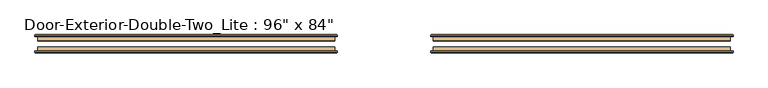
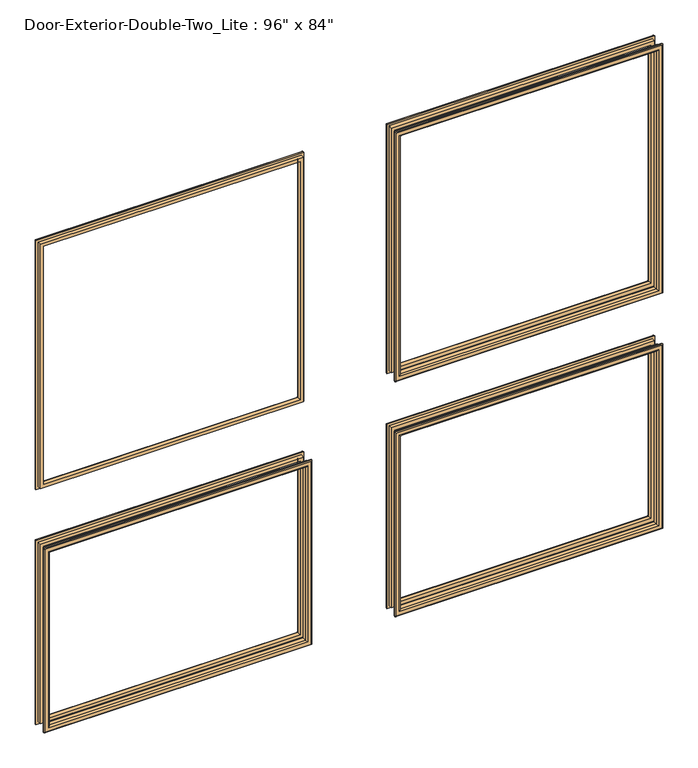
"""IFC4 building model written with IfcOpenShell, lengths in millimetres: door geometry."""

from ifc_helpers import new_model, si_unit, frame, origin, place, context, project, spatial, ellipse_curve, source, transform, mapped, element, save
from ifc_brep_helpers import plane_surface, cylinder_surface, advanced_brep


def door_76e3c7e0(model_context):
    return source(origin(), model_context, "Body", "AdvancedBrep", [
        advanced_brep(
        [(-1066.8, 123.825, 914.4), (-1066.8, 136.525, 914.4), (-1066.8, 136.525, 254.0), (-1066.8, 123.825, 254.0), (-1054.8, 137.525, 902.4), (-1054.8, 123.825, 902.4), (-1054.8, 123.825, 266.0), (-1054.8, 137.525, 266.0), (-1059.8, 142.525, 907.4), (-1059.8, 142.525, 261.0), (-1074.8, 140.525, 922.4), (-1072.8, 142.525, 920.4), (-1072.8, 142.525, 248.0), (-1074.8, 140.525, 246.0), (-1074.8, 136.525, 922.4), (-1074.8, 136.525, 246.0), (-152.4, 136.525, 254.0), (-152.4, 123.825, 254.0), (-164.4, 123.825, 266.0), (-164.4, 137.525, 266.0), (-159.4, 142.525, 261.0), (-146.4, 142.525, 248.0), (-144.4, 140.525, 246.0), (-144.4, 136.525, 246.0), (-152.4, 136.525, 914.4), (-152.4, 123.825, 914.4), (-164.4, 123.825, 902.4), (-164.4, 137.525, 902.4), (-159.4, 142.525, 907.4), (-146.4, 142.525, 920.4), (-144.4, 140.525, 922.4), (-144.4, 136.525, 922.4)],
        [
            (0, 1),
            (1, 2),
            (2, 3),
            (3, 0),
            (4, 5),
            (5, 6),
            (6, 7),
            (7, 4),
            (8, 4, ellipse_curve(frame((-1059.8, 137.525, 907.4), z_axis=(-0.7071067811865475, 0.0, -0.7071067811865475), x_axis=(-0.7071067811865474, 0.0, 0.7071067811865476)), 7.0710678, 5.0)),
            (7, 9, ellipse_curve(frame((-1059.8, 137.525, 261.0), z_axis=(-0.7071067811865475, 0.0, 0.7071067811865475), x_axis=(0.7071067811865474, 0.0, 0.7071067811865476)), 7.0710678, 5.0)),
            (9, 8),
            (10, 11, ellipse_curve(frame((-1072.8, 140.525, 920.4), z_axis=(-0.7071067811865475, 0.0, -0.7071067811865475), x_axis=(-0.7071067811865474, 0.0, 0.7071067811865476)), 2.8284271, 2.0)),
            (11, 12),
            (12, 13, ellipse_curve(frame((-1072.8, 140.525, 248.0), z_axis=(-0.7071067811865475, 0.0, 0.7071067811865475), x_axis=(0.7071067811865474, 0.0, 0.7071067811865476)), 2.8284271, 2.0)),
            (13, 10),
            (14, 10),
            (13, 15),
            (15, 14),
            (2, 16),
            (16, 17),
            (17, 3),
            (6, 18),
            (18, 19),
            (19, 7),
            (19, 20, ellipse_curve(frame((-159.4, 137.525, 261.0), z_axis=(-0.7071067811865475, 0.0, -0.7071067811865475), x_axis=(-0.7071067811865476, 0.0, 0.7071067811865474)), 7.0710678, 5.0)),
            (20, 9),
            (12, 21),
            (21, 22, ellipse_curve(frame((-146.4, 140.525, 248.0), z_axis=(-0.7071067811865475, 0.0, -0.7071067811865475), x_axis=(-0.7071067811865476, 0.0, 0.7071067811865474)), 2.8284271, 2.0)),
            (22, 13),
            (22, 23),
            (23, 15),
            (16, 24),
            (24, 25),
            (25, 17),
            (18, 26),
            (26, 27),
            (27, 19),
            (27, 28, ellipse_curve(frame((-159.4, 137.525, 907.4), z_axis=(0.7071067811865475, 0.0, -0.7071067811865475), x_axis=(-0.7071067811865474, 0.0, -0.7071067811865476)), 7.0710678, 5.0)),
            (28, 20),
            (21, 29),
            (29, 30, ellipse_curve(frame((-146.4, 140.525, 920.4), z_axis=(0.7071067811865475, 0.0, -0.7071067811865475), x_axis=(-0.7071067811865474, 0.0, -0.7071067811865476)), 2.8284271, 2.0)),
            (30, 22),
            (30, 31),
            (31, 23),
            (31, 14),
            (1, 24),
            (0, 25),
            (5, 26),
            (4, 27),
            (8, 28),
            (11, 29),
            (10, 30),
        ],
        [
            plane_surface(frame((-1066.8, 136.525, 914.4), z_axis=(-1.0, 0.0, 0.0), x_axis=(0.0, 0.0, -1.0))),
            plane_surface(frame((-1054.8, 123.825, 902.4), z_axis=(1.0, 0.0, 0.0), x_axis=(0.0, 0.0, -1.0))),
            cylinder_surface(frame((-1059.8, 137.525, 914.4), z_axis=(0.0, 0.0, 1.0), x_axis=(-1.0, 0.0, 0.0)), 5.0),
            cylinder_surface(frame((-1072.8, 140.525, 914.4), z_axis=(0.0, 0.0, 1.0), x_axis=(-1.0, 0.0, 0.0)), 2.0),
            plane_surface(frame((-1074.8, 140.525, 922.4), z_axis=(-1.0, 0.0, 0.0), x_axis=(0.0, 0.0, -1.0))),
            plane_surface(frame((-1066.8, 136.525, 254.0), z_axis=(0.0, 0.0, -1.0), x_axis=(1.0, 0.0, 0.0))),
            plane_surface(frame((-1054.8, 123.825, 266.0), z_axis=(0.0, 0.0, 1.0), x_axis=(1.0, 0.0, 0.0))),
            cylinder_surface(frame((-1066.8, 137.525, 261.0), z_axis=(-1.0, 0.0, 0.0), x_axis=(0.0, 0.0, -1.0)), 5.0),
            cylinder_surface(frame((-1066.8, 140.525, 248.0), z_axis=(-1.0, 0.0, 0.0), x_axis=(0.0, 0.0, -1.0)), 2.0),
            plane_surface(frame((-1074.8, 140.525, 246.0), z_axis=(0.0, 0.0, -1.0), x_axis=(1.0, 0.0, 0.0))),
            plane_surface(frame((-152.4, 136.525, 254.0), z_axis=(1.0, 0.0, 0.0), x_axis=(0.0, 0.0, 1.0))),
            plane_surface(frame((-164.4, 123.825, 266.0), z_axis=(-1.0, 0.0, 0.0), x_axis=(0.0, 0.0, 1.0))),
            cylinder_surface(frame((-159.4, 137.525, 254.0), z_axis=(0.0, 0.0, -1.0), x_axis=(1.0, 0.0, 0.0)), 5.0),
            cylinder_surface(frame((-146.4, 140.525, 254.0), z_axis=(0.0, 0.0, -1.0), x_axis=(1.0, 0.0, 0.0)), 2.0),
            plane_surface(frame((-144.4, 140.525, 246.0), z_axis=(1.0, 0.0, 0.0), x_axis=(0.0, 0.0, 1.0))),
            plane_surface(frame((-144.4, 136.525, 922.4), z_axis=(0.0, -1.0, 0.0), x_axis=(-1.0, 0.0, 0.0))),
            plane_surface(frame((-152.4, 136.525, 914.4), z_axis=(0.0, 0.0, 1.0), x_axis=(-1.0, 0.0, 0.0))),
            plane_surface(frame((-152.4, 123.825, 914.4), z_axis=(0.0, -1.0, 0.0), x_axis=(-1.0, 0.0, 0.0))),
            plane_surface(frame((-164.4, 123.825, 902.4), z_axis=(0.0, 0.0, -1.0), x_axis=(-1.0, 0.0, 0.0))),
            cylinder_surface(frame((-152.4, 137.525, 907.4), z_axis=(1.0, 0.0, 0.0), x_axis=(0.0, 0.0, 1.0)), 5.0),
            plane_surface(frame((-159.4, 142.525, 907.4), z_axis=(0.0, 1.0, 0.0), x_axis=(-1.0, 0.0, 0.0))),
            cylinder_surface(frame((-152.4, 140.525, 920.4), z_axis=(1.0, 0.0, 0.0), x_axis=(0.0, 0.0, 1.0)), 2.0),
            plane_surface(frame((-144.4, 140.525, 922.4), z_axis=(0.0, 0.0, 1.0), x_axis=(-1.0, 0.0, 0.0))),
        ],
        [
            (0, [[1, 2, 3, 4]]),
            (1, [[5, 6, 7, 8]]),
            (2, [[9, -8, 10, 11]]),
            (3, [[12, 13, 14, 15]]),
            (4, [[16, -15, 17, 18]]),
            (5, [[-3, 19, 20, 21]]),
            (6, [[-7, 22, 23, 24]]),
            (7, [[-10, -24, 25, 26]]),
            (8, [[-14, 27, 28, 29]]),
            (9, [[-17, -29, 30, 31]]),
            (10, [[-20, 32, 33, 34]]),
            (11, [[-23, 35, 36, 37]]),
            (12, [[-25, -37, 38, 39]]),
            (13, [[-28, 40, 41, 42]]),
            (14, [[-30, -42, 43, 44]]),
            (15, [[-31, -44, 45, -18], [46, -32, -19, -2]]),
            (16, [[-33, -46, -1, 47]]),
            (17, [[-21, -34, -47, -4], [48, -35, -22, -6]]),
            (18, [[-36, -48, -5, 49]]),
            (19, [[-38, -49, -9, 50]]),
            (20, [[51, -40, -27, -13], [-26, -39, -50, -11]]),
            (21, [[-41, -51, -12, 52]]),
            (22, [[-43, -52, -16, -45]]),
        ],
    ),
        advanced_brep(
        [(152.4, 123.825, 914.4), (152.4, 136.525, 914.4), (152.4, 136.525, 254.0), (152.4, 123.825, 254.0), (164.4, 137.525, 902.4), (164.4, 123.825, 902.4), (164.4, 123.825, 266.0), (164.4, 137.525, 266.0), (159.4, 142.525, 907.4), (159.4, 142.525, 261.0), (144.4, 140.525, 922.4), (146.4, 142.525, 920.4), (146.4, 142.525, 248.0), (144.4, 140.525, 246.0), (144.4, 136.525, 922.4), (144.4, 136.525, 246.0), (1066.8, 136.525, 254.0), (1066.8, 123.825, 254.0), (1054.8, 123.825, 266.0), (1054.8, 137.525, 266.0), (1059.8, 142.525, 261.0), (1072.8, 142.525, 248.0), (1074.8, 140.525, 246.0), (1074.8, 136.525, 246.0), (1066.8, 136.525, 914.4), (1066.8, 123.825, 914.4), (1054.8, 123.825, 902.4), (1054.8, 137.525, 902.4), (1059.8, 142.525, 907.4), (1072.8, 142.525, 920.4), (1074.8, 140.525, 922.4), (1074.8, 136.525, 922.4)],
        [
            (0, 1),
            (1, 2),
            (2, 3),
            (3, 0),
            (4, 5),
            (5, 6),
            (6, 7),
            (7, 4),
            (8, 4, ellipse_curve(frame((159.4, 137.525, 907.4), z_axis=(-0.7071067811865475, 0.0, -0.7071067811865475), x_axis=(-0.7071067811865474, 0.0, 0.7071067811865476)), 7.0710678, 5.0)),
            (7, 9, ellipse_curve(frame((159.4, 137.525, 261.0), z_axis=(-0.7071067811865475, 0.0, 0.7071067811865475), x_axis=(0.7071067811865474, 0.0, 0.7071067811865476)), 7.0710678, 5.0)),
            (9, 8),
            (10, 11, ellipse_curve(frame((146.4, 140.525, 920.4), z_axis=(-0.7071067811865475, 0.0, -0.7071067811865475), x_axis=(-0.7071067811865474, 0.0, 0.7071067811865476)), 2.8284271, 2.0)),
            (11, 12),
            (12, 13, ellipse_curve(frame((146.4, 140.525, 248.0), z_axis=(-0.7071067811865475, 0.0, 0.7071067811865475), x_axis=(0.7071067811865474, 0.0, 0.7071067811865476)), 2.8284271, 2.0)),
            (13, 10),
            (14, 10),
            (13, 15),
            (15, 14),
            (2, 16),
            (16, 17),
            (17, 3),
            (6, 18),
            (18, 19),
            (19, 7),
            (19, 20, ellipse_curve(frame((1059.8, 137.525, 261.0), z_axis=(-0.7071067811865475, 0.0, -0.7071067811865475), x_axis=(-0.7071067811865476, 0.0, 0.7071067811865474)), 7.0710678, 5.0)),
            (20, 9),
            (12, 21),
            (21, 22, ellipse_curve(frame((1072.8, 140.525, 248.0), z_axis=(-0.7071067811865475, 0.0, -0.7071067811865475), x_axis=(-0.7071067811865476, 0.0, 0.7071067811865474)), 2.8284271, 2.0)),
            (22, 13),
            (22, 23),
            (23, 15),
            (16, 24),
            (24, 25),
            (25, 17),
            (18, 26),
            (26, 27),
            (27, 19),
            (27, 28, ellipse_curve(frame((1059.8, 137.525, 907.4), z_axis=(0.7071067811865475, 0.0, -0.7071067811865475), x_axis=(-0.7071067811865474, 0.0, -0.7071067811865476)), 7.0710678, 5.0)),
            (28, 20),
            (21, 29),
            (29, 30, ellipse_curve(frame((1072.8, 140.525, 920.4), z_axis=(0.7071067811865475, 0.0, -0.7071067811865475), x_axis=(-0.7071067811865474, 0.0, -0.7071067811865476)), 2.8284271, 2.0)),
            (30, 22),
            (30, 31),
            (31, 23),
            (31, 14),
            (1, 24),
            (0, 25),
            (5, 26),
            (4, 27),
            (8, 28),
            (11, 29),
            (10, 30),
        ],
        [
            plane_surface(frame((152.4, 136.525, 914.4), z_axis=(-1.0, 0.0, 0.0), x_axis=(0.0, 0.0, -1.0))),
            plane_surface(frame((164.4, 123.825, 902.4), z_axis=(1.0, 0.0, 0.0), x_axis=(0.0, 0.0, -1.0))),
            cylinder_surface(frame((159.4, 137.525, 914.4), z_axis=(0.0, 0.0, 1.0), x_axis=(-1.0, 0.0, 0.0)), 5.0),
            cylinder_surface(frame((146.4, 140.525, 914.4), z_axis=(0.0, 0.0, 1.0), x_axis=(-1.0, 0.0, 0.0)), 2.0),
            plane_surface(frame((144.4, 140.525, 922.4), z_axis=(-1.0, 0.0, 0.0), x_axis=(0.0, 0.0, -1.0))),
            plane_surface(frame((152.4, 136.525, 254.0), z_axis=(0.0, 0.0, -1.0), x_axis=(1.0, 0.0, 0.0))),
            plane_surface(frame((164.4, 123.825, 266.0), z_axis=(0.0, 0.0, 1.0), x_axis=(1.0, 0.0, 0.0))),
            cylinder_surface(frame((152.4, 137.525, 261.0), z_axis=(-1.0, 0.0, 0.0), x_axis=(0.0, 0.0, -1.0)), 5.0),
            cylinder_surface(frame((152.4, 140.525, 248.0), z_axis=(-1.0, 0.0, 0.0), x_axis=(0.0, 0.0, -1.0)), 2.0),
            plane_surface(frame((144.4, 140.525, 246.0), z_axis=(0.0, 0.0, -1.0), x_axis=(1.0, 0.0, 0.0))),
            plane_surface(frame((1066.8, 136.525, 254.0), z_axis=(1.0, 0.0, 0.0), x_axis=(0.0, 0.0, 1.0))),
            plane_surface(frame((1054.8, 123.825, 266.0), z_axis=(-1.0, 0.0, 0.0), x_axis=(0.0, 0.0, 1.0))),
            cylinder_surface(frame((1059.8, 137.525, 254.0), z_axis=(0.0, 0.0, -1.0), x_axis=(1.0, 0.0, 0.0)), 5.0),
            cylinder_surface(frame((1072.8, 140.525, 254.0), z_axis=(0.0, 0.0, -1.0), x_axis=(1.0, 0.0, 0.0)), 2.0),
            plane_surface(frame((1074.8, 140.525, 246.0), z_axis=(1.0, 0.0, 0.0), x_axis=(0.0, 0.0, 1.0))),
            plane_surface(frame((1074.8, 136.525, 922.4), z_axis=(0.0, -1.0, 0.0), x_axis=(-1.0, 0.0, 0.0))),
            plane_surface(frame((1066.8, 136.525, 914.4), z_axis=(0.0, 0.0, 1.0), x_axis=(-1.0, 0.0, 0.0))),
            plane_surface(frame((1066.8, 123.825, 914.4), z_axis=(0.0, -1.0, 0.0), x_axis=(-1.0, 0.0, 0.0))),
            plane_surface(frame((1054.8, 123.825, 902.4), z_axis=(0.0, 0.0, -1.0), x_axis=(-1.0, 0.0, 0.0))),
            cylinder_surface(frame((1066.8, 137.525, 907.4), z_axis=(1.0, 0.0, 0.0), x_axis=(0.0, 0.0, 1.0)), 5.0),
            plane_surface(frame((1059.8, 142.525, 907.4), z_axis=(0.0, 1.0, 0.0), x_axis=(-1.0, 0.0, 0.0))),
            cylinder_surface(frame((1066.8, 140.525, 920.4), z_axis=(1.0, 0.0, 0.0), x_axis=(0.0, 0.0, 1.0)), 2.0),
            plane_surface(frame((1074.8, 140.525, 922.4), z_axis=(0.0, 0.0, 1.0), x_axis=(-1.0, 0.0, 0.0))),
        ],
        [
            (0, [[1, 2, 3, 4]]),
            (1, [[5, 6, 7, 8]]),
            (2, [[9, -8, 10, 11]]),
            (3, [[12, 13, 14, 15]]),
            (4, [[16, -15, 17, 18]]),
            (5, [[-3, 19, 20, 21]]),
            (6, [[-7, 22, 23, 24]]),
            (7, [[-10, -24, 25, 26]]),
            (8, [[-14, 27, 28, 29]]),
            (9, [[-17, -29, 30, 31]]),
            (10, [[-20, 32, 33, 34]]),
            (11, [[-23, 35, 36, 37]]),
            (12, [[-25, -37, 38, 39]]),
            (13, [[-28, 40, 41, 42]]),
            (14, [[-30, -42, 43, 44]]),
            (15, [[-31, -44, 45, -18], [46, -32, -19, -2]]),
            (16, [[-33, -46, -1, 47]]),
            (17, [[-21, -34, -47, -4], [48, -35, -22, -6]]),
            (18, [[-36, -48, -5, 49]]),
            (19, [[-38, -49, -9, 50]]),
            (20, [[51, -40, -27, -13], [-26, -39, -50, -11]]),
            (21, [[-41, -51, -12, 52]]),
            (22, [[-43, -52, -16, -45]]),
        ],
    ),
        advanced_brep(
        [(152.4, 123.825, 2016.125), (152.4, 136.525, 2016.125), (152.4, 136.525, 1117.6), (152.4, 123.825, 1117.6), (164.4, 137.525, 2004.125), (164.4, 123.825, 2004.125), (164.4, 123.825, 1129.6), (164.4, 137.525, 1129.6), (159.4, 142.525, 2009.125), (159.4, 142.525, 1124.6), (144.4, 140.525, 2024.125), (146.4, 142.525, 2022.125), (146.4, 142.525, 1111.6), (144.4, 140.525, 1109.6), (144.4, 136.525, 2024.125), (144.4, 136.525, 1109.6), (1066.8, 136.525, 1117.6), (1066.8, 123.825, 1117.6), (1054.8, 123.825, 1129.6), (1054.8, 137.525, 1129.6), (1059.8, 142.525, 1124.6), (1072.8, 142.525, 1111.6), (1074.8, 140.525, 1109.6), (1074.8, 136.525, 1109.6), (1066.8, 136.525, 2016.125), (1066.8, 123.825, 2016.125), (1054.8, 123.825, 2004.125), (1054.8, 137.525, 2004.125), (1059.8, 142.525, 2009.125), (1072.8, 142.525, 2022.125), (1074.8, 140.525, 2024.125), (1074.8, 136.525, 2024.125)],
        [
            (0, 1),
            (1, 2),
            (2, 3),
            (3, 0),
            (4, 5),
            (5, 6),
            (6, 7),
            (7, 4),
            (8, 4, ellipse_curve(frame((159.4, 137.525, 2009.125), z_axis=(-0.7071067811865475, 0.0, -0.7071067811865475), x_axis=(-0.7071067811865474, 0.0, 0.7071067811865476)), 7.0710678, 5.0)),
            (7, 9, ellipse_curve(frame((159.4, 137.525, 1124.6), z_axis=(-0.7071067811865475, 0.0, 0.7071067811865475), x_axis=(0.7071067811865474, 0.0, 0.7071067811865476)), 7.0710678, 5.0)),
            (9, 8),
            (10, 11, ellipse_curve(frame((146.4, 140.525, 2022.125), z_axis=(-0.7071067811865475, 0.0, -0.7071067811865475), x_axis=(-0.7071067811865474, 0.0, 0.7071067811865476)), 2.8284271, 2.0)),
            (11, 12),
            (12, 13, ellipse_curve(frame((146.4, 140.525, 1111.6), z_axis=(-0.7071067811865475, 0.0, 0.7071067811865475), x_axis=(0.7071067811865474, 0.0, 0.7071067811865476)), 2.8284271, 2.0)),
            (13, 10),
            (14, 10),
            (13, 15),
            (15, 14),
            (2, 16),
            (16, 17),
            (17, 3),
            (6, 18),
            (18, 19),
            (19, 7),
            (19, 20, ellipse_curve(frame((1059.8, 137.525, 1124.6), z_axis=(-0.7071067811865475, 0.0, -0.7071067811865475), x_axis=(-0.7071067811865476, 0.0, 0.7071067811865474)), 7.0710678, 5.0)),
            (20, 9),
            (12, 21),
            (21, 22, ellipse_curve(frame((1072.8, 140.525, 1111.6), z_axis=(-0.7071067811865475, 0.0, -0.7071067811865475), x_axis=(-0.7071067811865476, 0.0, 0.7071067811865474)), 2.8284271, 2.0)),
            (22, 13),
            (22, 23),
            (23, 15),
            (16, 24),
            (24, 25),
            (25, 17),
            (18, 26),
            (26, 27),
            (27, 19),
            (27, 28, ellipse_curve(frame((1059.8, 137.525, 2009.125), z_axis=(0.7071067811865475, 0.0, -0.7071067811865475), x_axis=(-0.7071067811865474, 0.0, -0.7071067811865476)), 7.0710678, 5.0)),
            (28, 20),
            (21, 29),
            (29, 30, ellipse_curve(frame((1072.8, 140.525, 2022.125), z_axis=(0.7071067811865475, 0.0, -0.7071067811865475), x_axis=(-0.7071067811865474, 0.0, -0.7071067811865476)), 2.8284271, 2.0)),
            (30, 22),
            (30, 31),
            (31, 23),
            (31, 14),
            (1, 24),
            (0, 25),
            (5, 26),
            (4, 27),
            (8, 28),
            (11, 29),
            (10, 30),
        ],
        [
            plane_surface(frame((152.4, 136.525, 2016.125), z_axis=(-1.0, 0.0, 0.0), x_axis=(0.0, 0.0, -1.0))),
            plane_surface(frame((164.4, 123.825, 2004.125), z_axis=(1.0, 0.0, 0.0), x_axis=(0.0, 0.0, -1.0))),
            cylinder_surface(frame((159.4, 137.525, 2016.125), z_axis=(0.0, 0.0, 1.0), x_axis=(-1.0, 0.0, 0.0)), 5.0),
            cylinder_surface(frame((146.4, 140.525, 2016.125), z_axis=(0.0, 0.0, 1.0), x_axis=(-1.0, 0.0, 0.0)), 2.0),
            plane_surface(frame((144.4, 140.525, 2024.125), z_axis=(-1.0, 0.0, 0.0), x_axis=(0.0, 0.0, -1.0))),
            plane_surface(frame((152.4, 136.525, 1117.6), z_axis=(0.0, 0.0, -1.0), x_axis=(1.0, 0.0, 0.0))),
            plane_surface(frame((164.4, 123.825, 1129.6), z_axis=(0.0, 0.0, 1.0), x_axis=(1.0, 0.0, 0.0))),
            cylinder_surface(frame((152.4, 137.525, 1124.6), z_axis=(-1.0, 0.0, 0.0), x_axis=(0.0, 0.0, -1.0)), 5.0),
            cylinder_surface(frame((152.4, 140.525, 1111.6), z_axis=(-1.0, 0.0, 0.0), x_axis=(0.0, 0.0, -1.0)), 2.0),
            plane_surface(frame((144.4, 140.525, 1109.6), z_axis=(0.0, 0.0, -1.0), x_axis=(1.0, 0.0, 0.0))),
            plane_surface(frame((1066.8, 136.525, 1117.6), z_axis=(1.0, 0.0, 0.0), x_axis=(0.0, 0.0, 1.0))),
            plane_surface(frame((1054.8, 123.825, 1129.6), z_axis=(-1.0, 0.0, 0.0), x_axis=(0.0, 0.0, 1.0))),
            cylinder_surface(frame((1059.8, 137.525, 1117.6), z_axis=(0.0, 0.0, -1.0), x_axis=(1.0, 0.0, 0.0)), 5.0),
            cylinder_surface(frame((1072.8, 140.525, 1117.6), z_axis=(0.0, 0.0, -1.0), x_axis=(1.0, 0.0, 0.0)), 2.0),
            plane_surface(frame((1074.8, 140.525, 1109.6), z_axis=(1.0, 0.0, 0.0), x_axis=(0.0, 0.0, 1.0))),
            plane_surface(frame((1074.8, 136.525, 2024.125), z_axis=(0.0, -1.0, 0.0), x_axis=(-1.0, 0.0, 0.0))),
            plane_surface(frame((1066.8, 136.525, 2016.125), z_axis=(0.0, 0.0, 1.0), x_axis=(-1.0, 0.0, 0.0))),
            plane_surface(frame((1066.8, 123.825, 2016.125), z_axis=(0.0, -1.0, 0.0), x_axis=(-1.0, 0.0, 0.0))),
            plane_surface(frame((1054.8, 123.825, 2004.125), z_axis=(0.0, 0.0, -1.0), x_axis=(-1.0, 0.0, 0.0))),
            cylinder_surface(frame((1066.8, 137.525, 2009.125), z_axis=(1.0, 0.0, 0.0), x_axis=(0.0, 0.0, 1.0)), 5.0),
            plane_surface(frame((1059.8, 142.525, 2009.125), z_axis=(0.0, 1.0, 0.0), x_axis=(-1.0, 0.0, 0.0))),
            cylinder_surface(frame((1066.8, 140.525, 2022.125), z_axis=(1.0, 0.0, 0.0), x_axis=(0.0, 0.0, 1.0)), 2.0),
            plane_surface(frame((1074.8, 140.525, 2024.125), z_axis=(0.0, 0.0, 1.0), x_axis=(-1.0, 0.0, 0.0))),
        ],
        [
            (0, [[1, 2, 3, 4]]),
            (1, [[5, 6, 7, 8]]),
            (2, [[9, -8, 10, 11]]),
            (3, [[12, 13, 14, 15]]),
            (4, [[16, -15, 17, 18]]),
            (5, [[-3, 19, 20, 21]]),
            (6, [[-7, 22, 23, 24]]),
            (7, [[-10, -24, 25, 26]]),
            (8, [[-14, 27, 28, 29]]),
            (9, [[-17, -29, 30, 31]]),
            (10, [[-20, 32, 33, 34]]),
            (11, [[-23, 35, 36, 37]]),
            (12, [[-25, -37, 38, 39]]),
            (13, [[-28, 40, 41, 42]]),
            (14, [[-30, -42, 43, 44]]),
            (15, [[-31, -44, 45, -18], [46, -32, -19, -2]]),
            (16, [[-33, -46, -1, 47]]),
            (17, [[-21, -34, -47, -4], [48, -35, -22, -6]]),
            (18, [[-36, -48, -5, 49]]),
            (19, [[-38, -49, -9, 50]]),
            (20, [[51, -40, -27, -13], [-26, -39, -50, -11]]),
            (21, [[-41, -51, -12, 52]]),
            (22, [[-43, -52, -16, -45]]),
        ],
    ),
        advanced_brep(
        [(-1066.8, 123.825, 2016.125), (-1066.8, 136.525, 2016.125), (-1066.8, 136.525, 1117.6), (-1066.8, 123.825, 1117.6), (-1054.8, 137.525, 2004.125), (-1054.8, 123.825, 2004.125), (-1054.8, 123.825, 1129.6), (-1054.8, 137.525, 1129.6), (-1059.8, 142.525, 2009.125), (-1059.8, 142.525, 1124.6), (-1074.8, 140.525, 2024.125), (-1072.8, 142.525, 2022.125), (-1072.8, 142.525, 1111.6), (-1074.8, 140.525, 1109.6), (-1074.8, 136.525, 2024.125), (-1074.8, 136.525, 1109.6), (-152.4, 136.525, 1117.6), (-152.4, 123.825, 1117.6), (-164.4, 123.825, 1129.6), (-164.4, 137.525, 1129.6), (-159.4, 142.525, 1124.6), (-146.4, 142.525, 1111.6), (-144.4, 140.525, 1109.6), (-144.4, 136.525, 1109.6), (-152.4, 136.525, 2016.125), (-152.4, 123.825, 2016.125), (-164.4, 123.825, 2004.125), (-164.4, 137.525, 2004.125), (-159.4, 142.525, 2009.125), (-146.4, 142.525, 2022.125), (-144.4, 140.525, 2024.125), (-144.4, 136.525, 2024.125)],
        [
            (0, 1),
            (1, 2),
            (2, 3),
            (3, 0),
            (4, 5),
            (5, 6),
            (6, 7),
            (7, 4),
            (8, 4, ellipse_curve(frame((-1059.8, 137.525, 2009.125), z_axis=(-0.7071067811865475, 0.0, -0.7071067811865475), x_axis=(-0.7071067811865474, 0.0, 0.7071067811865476)), 7.0710678, 5.0)),
            (7, 9, ellipse_curve(frame((-1059.8, 137.525, 1124.6), z_axis=(-0.7071067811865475, 0.0, 0.7071067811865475), x_axis=(0.7071067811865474, 0.0, 0.7071067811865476)), 7.0710678, 5.0)),
            (9, 8),
            (10, 11, ellipse_curve(frame((-1072.8, 140.525, 2022.125), z_axis=(-0.7071067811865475, 0.0, -0.7071067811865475), x_axis=(-0.7071067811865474, 0.0, 0.7071067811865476)), 2.8284271, 2.0)),
            (11, 12),
            (12, 13, ellipse_curve(frame((-1072.8, 140.525, 1111.6), z_axis=(-0.7071067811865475, 0.0, 0.7071067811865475), x_axis=(0.7071067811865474, 0.0, 0.7071067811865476)), 2.8284271, 2.0)),
            (13, 10),
            (14, 10),
            (13, 15),
            (15, 14),
            (2, 16),
            (16, 17),
            (17, 3),
            (6, 18),
            (18, 19),
            (19, 7),
            (19, 20, ellipse_curve(frame((-159.4, 137.525, 1124.6), z_axis=(-0.7071067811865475, 0.0, -0.7071067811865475), x_axis=(-0.7071067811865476, 0.0, 0.7071067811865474)), 7.0710678, 5.0)),
            (20, 9),
            (12, 21),
            (21, 22, ellipse_curve(frame((-146.4, 140.525, 1111.6), z_axis=(-0.7071067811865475, 0.0, -0.7071067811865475), x_axis=(-0.7071067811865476, 0.0, 0.7071067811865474)), 2.8284271, 2.0)),
            (22, 13),
            (22, 23),
            (23, 15),
            (16, 24),
            (24, 25),
            (25, 17),
            (18, 26),
            (26, 27),
            (27, 19),
            (27, 28, ellipse_curve(frame((-159.4, 137.525, 2009.125), z_axis=(0.7071067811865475, 0.0, -0.7071067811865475), x_axis=(-0.7071067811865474, 0.0, -0.7071067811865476)), 7.0710678, 5.0)),
            (28, 20),
            (21, 29),
            (29, 30, ellipse_curve(frame((-146.4, 140.525, 2022.125), z_axis=(0.7071067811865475, 0.0, -0.7071067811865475), x_axis=(-0.7071067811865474, 0.0, -0.7071067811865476)), 2.8284271, 2.0)),
            (30, 22),
            (30, 31),
            (31, 23),
            (31, 14),
            (1, 24),
            (0, 25),
            (5, 26),
            (4, 27),
            (8, 28),
            (11, 29),
            (10, 30),
        ],
        [
            plane_surface(frame((-1066.8, 136.525, 2016.125), z_axis=(-1.0, 0.0, 0.0), x_axis=(0.0, 0.0, -1.0))),
            plane_surface(frame((-1054.8, 123.825, 2004.125), z_axis=(1.0, 0.0, 0.0), x_axis=(0.0, 0.0, -1.0))),
            cylinder_surface(frame((-1059.8, 137.525, 2016.125), z_axis=(0.0, 0.0, 1.0), x_axis=(-1.0, 0.0, 0.0)), 5.0),
            cylinder_surface(frame((-1072.8, 140.525, 2016.125), z_axis=(0.0, 0.0, 1.0), x_axis=(-1.0, 0.0, 0.0)), 2.0),
            plane_surface(frame((-1074.8, 140.525, 2024.125), z_axis=(-1.0, 0.0, 0.0), x_axis=(0.0, 0.0, -1.0))),
            plane_surface(frame((-1066.8, 136.525, 1117.6), z_axis=(0.0, 0.0, -1.0), x_axis=(1.0, 0.0, 0.0))),
            plane_surface(frame((-1054.8, 123.825, 1129.6), z_axis=(0.0, 0.0, 1.0), x_axis=(1.0, 0.0, 0.0))),
            cylinder_surface(frame((-1066.8, 137.525, 1124.6), z_axis=(-1.0, 0.0, 0.0), x_axis=(0.0, 0.0, -1.0)), 5.0),
            cylinder_surface(frame((-1066.8, 140.525, 1111.6), z_axis=(-1.0, 0.0, 0.0), x_axis=(0.0, 0.0, -1.0)), 2.0),
            plane_surface(frame((-1074.8, 140.525, 1109.6), z_axis=(0.0, 0.0, -1.0), x_axis=(1.0, 0.0, 0.0))),
            plane_surface(frame((-152.4, 136.525, 1117.6), z_axis=(1.0, 0.0, 0.0), x_axis=(0.0, 0.0, 1.0))),
            plane_surface(frame((-164.4, 123.825, 1129.6), z_axis=(-1.0, 0.0, 0.0), x_axis=(0.0, 0.0, 1.0))),
            cylinder_surface(frame((-159.4, 137.525, 1117.6), z_axis=(0.0, 0.0, -1.0), x_axis=(1.0, 0.0, 0.0)), 5.0),
            cylinder_surface(frame((-146.4, 140.525, 1117.6), z_axis=(0.0, 0.0, -1.0), x_axis=(1.0, 0.0, 0.0)), 2.0),
            plane_surface(frame((-144.4, 140.525, 1109.6), z_axis=(1.0, 0.0, 0.0), x_axis=(0.0, 0.0, 1.0))),
            plane_surface(frame((-144.4, 136.525, 2024.125), z_axis=(0.0, -1.0, 0.0), x_axis=(-1.0, 0.0, 0.0))),
            plane_surface(frame((-152.4, 136.525, 2016.125), z_axis=(0.0, 0.0, 1.0), x_axis=(-1.0, 0.0, 0.0))),
            plane_surface(frame((-152.4, 123.825, 2016.125), z_axis=(0.0, -1.0, 0.0), x_axis=(-1.0, 0.0, 0.0))),
            plane_surface(frame((-164.4, 123.825, 2004.125), z_axis=(0.0, 0.0, -1.0), x_axis=(-1.0, 0.0, 0.0))),
            cylinder_surface(frame((-152.4, 137.525, 2009.125), z_axis=(1.0, 0.0, 0.0), x_axis=(0.0, 0.0, 1.0)), 5.0),
            plane_surface(frame((-159.4, 142.525, 2009.125), z_axis=(0.0, 1.0, 0.0), x_axis=(-1.0, 0.0, 0.0))),
            cylinder_surface(frame((-152.4, 140.525, 2022.125), z_axis=(1.0, 0.0, 0.0), x_axis=(0.0, 0.0, 1.0)), 2.0),
            plane_surface(frame((-144.4, 140.525, 2024.125), z_axis=(0.0, 0.0, 1.0), x_axis=(-1.0, 0.0, 0.0))),
        ],
        [
            (0, [[1, 2, 3, 4]]),
            (1, [[5, 6, 7, 8]]),
            (2, [[9, -8, 10, 11]]),
            (3, [[12, 13, 14, 15]]),
            (4, [[16, -15, 17, 18]]),
            (5, [[-3, 19, 20, 21]]),
            (6, [[-7, 22, 23, 24]]),
            (7, [[-10, -24, 25, 26]]),
            (8, [[-14, 27, 28, 29]]),
            (9, [[-17, -29, 30, 31]]),
            (10, [[-20, 32, 33, 34]]),
            (11, [[-23, 35, 36, 37]]),
            (12, [[-25, -37, 38, 39]]),
            (13, [[-28, 40, 41, 42]]),
            (14, [[-30, -42, 43, 44]]),
            (15, [[-31, -44, 45, -18], [46, -32, -19, -2]]),
            (16, [[-33, -46, -1, 47]]),
            (17, [[-21, -34, -47, -4], [48, -35, -22, -6]]),
            (18, [[-36, -48, -5, 49]]),
            (19, [[-38, -49, -9, 50]]),
            (20, [[51, -40, -27, -13], [-26, -39, -50, -11]]),
            (21, [[-41, -51, -12, 52]]),
            (22, [[-43, -52, -16, -45]]),
        ],
    ),
        advanced_brep(
        [(-1066.8, 104.775, 254.0), (-1066.8, 92.075, 254.0), (-1066.8, 92.075, 914.4), (-1066.8, 104.775, 914.4), (-1054.8, 91.075, 266.0), (-1054.8, 104.775, 266.0), (-1054.8, 104.775, 902.4), (-1054.8, 91.075, 902.4), (-1059.8, 86.075, 261.0), (-1059.8, 86.075, 907.4), (-1074.8, 88.075, 246.0), (-1072.8, 86.075, 248.0), (-1072.8, 86.075, 920.4), (-1074.8, 88.075, 922.4), (-1074.8, 92.075, 246.0), (-1074.8, 92.075, 922.4), (-152.4, 92.075, 914.4), (-152.4, 104.775, 914.4), (-164.4, 104.775, 902.4), (-164.4, 91.075, 902.4), (-159.4, 86.075, 907.4), (-146.4, 86.075, 920.4), (-144.4, 88.075, 922.4), (-144.4, 92.075, 922.4), (-152.4, 92.075, 254.0), (-152.4, 104.775, 254.0), (-164.4, 104.775, 266.0), (-164.4, 91.075, 266.0), (-159.4, 86.075, 261.0), (-146.4, 86.075, 248.0), (-144.4, 88.075, 246.0), (-144.4, 92.075, 246.0)],
        [
            (0, 1),
            (1, 2),
            (2, 3),
            (3, 0),
            (4, 5),
            (5, 6),
            (6, 7),
            (7, 4),
            (8, 4, ellipse_curve(frame((-1059.8, 91.075, 261.0), z_axis=(-0.7071067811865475, 0.0, 0.7071067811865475), x_axis=(-0.7071067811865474, 0.0, -0.7071067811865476)), 7.0710678, 5.0)),
            (7, 9, ellipse_curve(frame((-1059.8, 91.075, 907.4), z_axis=(-0.7071067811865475, 0.0, -0.7071067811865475), x_axis=(0.7071067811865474, 0.0, -0.7071067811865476)), 7.0710678, 5.0)),
            (9, 8),
            (10, 11, ellipse_curve(frame((-1072.8, 88.075, 248.0), z_axis=(-0.7071067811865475, 0.0, 0.7071067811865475), x_axis=(-0.7071067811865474, 0.0, -0.7071067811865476)), 2.8284271, 2.0)),
            (11, 12),
            (12, 13, ellipse_curve(frame((-1072.8, 88.075, 920.4), z_axis=(-0.7071067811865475, 0.0, -0.7071067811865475), x_axis=(0.7071067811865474, 0.0, -0.7071067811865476)), 2.8284271, 2.0)),
            (13, 10),
            (14, 10),
            (13, 15),
            (15, 14),
            (2, 16),
            (16, 17),
            (17, 3),
            (6, 18),
            (18, 19),
            (19, 7),
            (19, 20, ellipse_curve(frame((-159.4, 91.075, 907.4), z_axis=(-0.7071067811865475, 0.0, 0.7071067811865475), x_axis=(-0.7071067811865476, 0.0, -0.7071067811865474)), 7.0710678, 5.0)),
            (20, 9),
            (12, 21),
            (21, 22, ellipse_curve(frame((-146.4, 88.075, 920.4), z_axis=(-0.7071067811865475, 0.0, 0.7071067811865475), x_axis=(-0.7071067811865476, 0.0, -0.7071067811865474)), 2.8284271, 2.0)),
            (22, 13),
            (22, 23),
            (23, 15),
            (16, 24),
            (24, 25),
            (25, 17),
            (18, 26),
            (26, 27),
            (27, 19),
            (27, 28, ellipse_curve(frame((-159.4, 91.075, 261.0), z_axis=(0.7071067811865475, 0.0, 0.7071067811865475), x_axis=(-0.7071067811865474, 0.0, 0.7071067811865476)), 7.0710678, 5.0)),
            (28, 20),
            (21, 29),
            (29, 30, ellipse_curve(frame((-146.4, 88.075, 248.0), z_axis=(0.7071067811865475, 0.0, 0.7071067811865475), x_axis=(-0.7071067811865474, 0.0, 0.7071067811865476)), 2.8284271, 2.0)),
            (30, 22),
            (30, 31),
            (31, 23),
            (31, 14),
            (1, 24),
            (0, 25),
            (5, 26),
            (4, 27),
            (8, 28),
            (11, 29),
            (10, 30),
        ],
        [
            plane_surface(frame((-1066.8, 92.075, 254.0), z_axis=(-1.0, 0.0, 0.0), x_axis=(0.0, 0.0, 1.0))),
            plane_surface(frame((-1054.8, 104.775, 266.0), z_axis=(1.0, 0.0, 0.0), x_axis=(0.0, 0.0, 1.0))),
            cylinder_surface(frame((-1059.8, 91.075, 254.0), z_axis=(0.0, 0.0, -1.0), x_axis=(-1.0, 0.0, 0.0)), 5.0),
            cylinder_surface(frame((-1072.8, 88.075, 254.0), z_axis=(0.0, 0.0, -1.0), x_axis=(-1.0, 0.0, 0.0)), 2.0),
            plane_surface(frame((-1074.8, 88.075, 246.0), z_axis=(-1.0, 0.0, 0.0), x_axis=(0.0, 0.0, 1.0))),
            plane_surface(frame((-1066.8, 92.075, 914.4), z_axis=(0.0, 0.0, 1.0), x_axis=(1.0, 0.0, 0.0))),
            plane_surface(frame((-1054.8, 104.775, 902.4), z_axis=(0.0, 0.0, -1.0), x_axis=(1.0, 0.0, 0.0))),
            cylinder_surface(frame((-1066.8, 91.075, 907.4), z_axis=(-1.0, 0.0, 0.0), x_axis=(0.0, 0.0, 1.0)), 5.0),
            cylinder_surface(frame((-1066.8, 88.075, 920.4), z_axis=(-1.0, 0.0, 0.0), x_axis=(0.0, 0.0, 1.0)), 2.0),
            plane_surface(frame((-1074.8, 88.075, 922.4), z_axis=(0.0, 0.0, 1.0), x_axis=(1.0, 0.0, 0.0))),
            plane_surface(frame((-152.4, 92.075, 914.4), z_axis=(1.0, 0.0, 0.0), x_axis=(0.0, 0.0, -1.0))),
            plane_surface(frame((-164.4, 104.775, 902.4), z_axis=(-1.0, 0.0, 0.0), x_axis=(0.0, 0.0, -1.0))),
            cylinder_surface(frame((-159.4, 91.075, 914.4), z_axis=(0.0, 0.0, 1.0), x_axis=(1.0, 0.0, 0.0)), 5.0),
            cylinder_surface(frame((-146.4, 88.075, 914.4), z_axis=(0.0, 0.0, 1.0), x_axis=(1.0, 0.0, 0.0)), 2.0),
            plane_surface(frame((-144.4, 88.075, 922.4), z_axis=(1.0, 0.0, 0.0), x_axis=(0.0, 0.0, -1.0))),
            plane_surface(frame((-144.4, 92.075, 246.0), z_axis=(0.0, 1.0, 0.0), x_axis=(-1.0, 0.0, 0.0))),
            plane_surface(frame((-152.4, 92.075, 254.0), z_axis=(0.0, 0.0, -1.0), x_axis=(-1.0, 0.0, 0.0))),
            plane_surface(frame((-152.4, 104.775, 254.0), z_axis=(0.0, 1.0, 0.0), x_axis=(-1.0, 0.0, 0.0))),
            plane_surface(frame((-164.4, 104.775, 266.0), z_axis=(0.0, 0.0, 1.0), x_axis=(-1.0, 0.0, 0.0))),
            cylinder_surface(frame((-152.4, 91.075, 261.0), z_axis=(1.0, 0.0, 0.0), x_axis=(0.0, 0.0, -1.0)), 5.0),
            plane_surface(frame((-159.4, 86.075, 261.0), z_axis=(0.0, -1.0, 0.0), x_axis=(-1.0, 0.0, 0.0))),
            cylinder_surface(frame((-152.4, 88.075, 248.0), z_axis=(1.0, 0.0, 0.0), x_axis=(0.0, 0.0, -1.0)), 2.0),
            plane_surface(frame((-144.4, 88.075, 246.0), z_axis=(0.0, 0.0, -1.0), x_axis=(-1.0, 0.0, 0.0))),
        ],
        [
            (0, [[1, 2, 3, 4]]),
            (1, [[5, 6, 7, 8]]),
            (2, [[9, -8, 10, 11]]),
            (3, [[12, 13, 14, 15]]),
            (4, [[16, -15, 17, 18]]),
            (5, [[-3, 19, 20, 21]]),
            (6, [[-7, 22, 23, 24]]),
            (7, [[-10, -24, 25, 26]]),
            (8, [[-14, 27, 28, 29]]),
            (9, [[-17, -29, 30, 31]]),
            (10, [[-20, 32, 33, 34]]),
            (11, [[-23, 35, 36, 37]]),
            (12, [[-25, -37, 38, 39]]),
            (13, [[-28, 40, 41, 42]]),
            (14, [[-30, -42, 43, 44]]),
            (15, [[-31, -44, 45, -18], [46, -32, -19, -2]]),
            (16, [[-33, -46, -1, 47]]),
            (17, [[-21, -34, -47, -4], [48, -35, -22, -6]]),
            (18, [[-36, -48, -5, 49]]),
            (19, [[-38, -49, -9, 50]]),
            (20, [[51, -40, -27, -13], [-26, -39, -50, -11]]),
            (21, [[-41, -51, -12, 52]]),
            (22, [[-43, -52, -16, -45]]),
        ],
    ),
        advanced_brep(
        [(152.4, 104.775, 254.0), (152.4, 92.075, 254.0), (152.4, 92.075, 914.4), (152.4, 104.775, 914.4), (164.4, 91.075, 266.0), (164.4, 104.775, 266.0), (164.4, 104.775, 902.4), (164.4, 91.075, 902.4), (159.4, 86.075, 261.0), (159.4, 86.075, 907.4), (144.4, 88.075, 246.0), (146.4, 86.075, 248.0), (146.4, 86.075, 920.4), (144.4, 88.075, 922.4), (144.4, 92.075, 246.0), (144.4, 92.075, 922.4), (1066.8, 92.075, 914.4), (1066.8, 104.775, 914.4), (1054.8, 104.775, 902.4), (1054.8, 91.075, 902.4), (1059.8, 86.075, 907.4), (1072.8, 86.075, 920.4), (1074.8, 88.075, 922.4), (1074.8, 92.075, 922.4), (1066.8, 92.075, 254.0), (1066.8, 104.775, 254.0), (1054.8, 104.775, 266.0), (1054.8, 91.075, 266.0), (1059.8, 86.075, 261.0), (1072.8, 86.075, 248.0), (1074.8, 88.075, 246.0), (1074.8, 92.075, 246.0)],
        [
            (0, 1),
            (1, 2),
            (2, 3),
            (3, 0),
            (4, 5),
            (5, 6),
            (6, 7),
            (7, 4),
            (8, 4, ellipse_curve(frame((159.4, 91.075, 261.0), z_axis=(-0.7071067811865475, 0.0, 0.7071067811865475), x_axis=(-0.7071067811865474, 0.0, -0.7071067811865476)), 7.0710678, 5.0)),
            (7, 9, ellipse_curve(frame((159.4, 91.075, 907.4), z_axis=(-0.7071067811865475, 0.0, -0.7071067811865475), x_axis=(0.7071067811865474, 0.0, -0.7071067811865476)), 7.0710678, 5.0)),
            (9, 8),
            (10, 11, ellipse_curve(frame((146.4, 88.075, 248.0), z_axis=(-0.7071067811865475, 0.0, 0.7071067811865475), x_axis=(-0.7071067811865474, 0.0, -0.7071067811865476)), 2.8284271, 2.0)),
            (11, 12),
            (12, 13, ellipse_curve(frame((146.4, 88.075, 920.4), z_axis=(-0.7071067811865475, 0.0, -0.7071067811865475), x_axis=(0.7071067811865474, 0.0, -0.7071067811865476)), 2.8284271, 2.0)),
            (13, 10),
            (14, 10),
            (13, 15),
            (15, 14),
            (2, 16),
            (16, 17),
            (17, 3),
            (6, 18),
            (18, 19),
            (19, 7),
            (19, 20, ellipse_curve(frame((1059.8, 91.075, 907.4), z_axis=(-0.7071067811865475, 0.0, 0.7071067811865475), x_axis=(-0.7071067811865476, 0.0, -0.7071067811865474)), 7.0710678, 5.0)),
            (20, 9),
            (12, 21),
            (21, 22, ellipse_curve(frame((1072.8, 88.075, 920.4), z_axis=(-0.7071067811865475, 0.0, 0.7071067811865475), x_axis=(-0.7071067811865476, 0.0, -0.7071067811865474)), 2.8284271, 2.0)),
            (22, 13),
            (22, 23),
            (23, 15),
            (16, 24),
            (24, 25),
            (25, 17),
            (18, 26),
            (26, 27),
            (27, 19),
            (27, 28, ellipse_curve(frame((1059.8, 91.075, 261.0), z_axis=(0.7071067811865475, 0.0, 0.7071067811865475), x_axis=(-0.7071067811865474, 0.0, 0.7071067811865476)), 7.0710678, 5.0)),
            (28, 20),
            (21, 29),
            (29, 30, ellipse_curve(frame((1072.8, 88.075, 248.0), z_axis=(0.7071067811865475, 0.0, 0.7071067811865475), x_axis=(-0.7071067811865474, 0.0, 0.7071067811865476)), 2.8284271, 2.0)),
            (30, 22),
            (30, 31),
            (31, 23),
            (31, 14),
            (1, 24),
            (0, 25),
            (5, 26),
            (4, 27),
            (8, 28),
            (11, 29),
            (10, 30),
        ],
        [
            plane_surface(frame((152.4, 92.075, 254.0), z_axis=(-1.0, 0.0, 0.0), x_axis=(0.0, 0.0, 1.0))),
            plane_surface(frame((164.4, 104.775, 266.0), z_axis=(1.0, 0.0, 0.0), x_axis=(0.0, 0.0, 1.0))),
            cylinder_surface(frame((159.4, 91.075, 254.0), z_axis=(0.0, 0.0, -1.0), x_axis=(-1.0, 0.0, 0.0)), 5.0),
            cylinder_surface(frame((146.4, 88.075, 254.0), z_axis=(0.0, 0.0, -1.0), x_axis=(-1.0, 0.0, 0.0)), 2.0),
            plane_surface(frame((144.4, 88.075, 246.0), z_axis=(-1.0, 0.0, 0.0), x_axis=(0.0, 0.0, 1.0))),
            plane_surface(frame((152.4, 92.075, 914.4), z_axis=(0.0, 0.0, 1.0), x_axis=(1.0, 0.0, 0.0))),
            plane_surface(frame((164.4, 104.775, 902.4), z_axis=(0.0, 0.0, -1.0), x_axis=(1.0, 0.0, 0.0))),
            cylinder_surface(frame((152.4, 91.075, 907.4), z_axis=(-1.0, 0.0, 0.0), x_axis=(0.0, 0.0, 1.0)), 5.0),
            cylinder_surface(frame((152.4, 88.075, 920.4), z_axis=(-1.0, 0.0, 0.0), x_axis=(0.0, 0.0, 1.0)), 2.0),
            plane_surface(frame((144.4, 88.075, 922.4), z_axis=(0.0, 0.0, 1.0), x_axis=(1.0, 0.0, 0.0))),
            plane_surface(frame((1066.8, 92.075, 914.4), z_axis=(1.0, 0.0, 0.0), x_axis=(0.0, 0.0, -1.0))),
            plane_surface(frame((1054.8, 104.775, 902.4), z_axis=(-1.0, 0.0, 0.0), x_axis=(0.0, 0.0, -1.0))),
            cylinder_surface(frame((1059.8, 91.075, 914.4), z_axis=(0.0, 0.0, 1.0), x_axis=(1.0, 0.0, 0.0)), 5.0),
            cylinder_surface(frame((1072.8, 88.075, 914.4), z_axis=(0.0, 0.0, 1.0), x_axis=(1.0, 0.0, 0.0)), 2.0),
            plane_surface(frame((1074.8, 88.075, 922.4), z_axis=(1.0, 0.0, 0.0), x_axis=(0.0, 0.0, -1.0))),
            plane_surface(frame((1074.8, 92.075, 246.0), z_axis=(0.0, 1.0, 0.0), x_axis=(-1.0, 0.0, 0.0))),
            plane_surface(frame((1066.8, 92.075, 254.0), z_axis=(0.0, 0.0, -1.0), x_axis=(-1.0, 0.0, 0.0))),
            plane_surface(frame((1066.8, 104.775, 254.0), z_axis=(0.0, 1.0, 0.0), x_axis=(-1.0, 0.0, 0.0))),
            plane_surface(frame((1054.8, 104.775, 266.0), z_axis=(0.0, 0.0, 1.0), x_axis=(-1.0, 0.0, 0.0))),
            cylinder_surface(frame((1066.8, 91.075, 261.0), z_axis=(1.0, 0.0, 0.0), x_axis=(0.0, 0.0, -1.0)), 5.0),
            plane_surface(frame((1059.8, 86.075, 261.0), z_axis=(0.0, -1.0, 0.0), x_axis=(-1.0, 0.0, 0.0))),
            cylinder_surface(frame((1066.8, 88.075, 248.0), z_axis=(1.0, 0.0, 0.0), x_axis=(0.0, 0.0, -1.0)), 2.0),
            plane_surface(frame((1074.8, 88.075, 246.0), z_axis=(0.0, 0.0, -1.0), x_axis=(-1.0, 0.0, 0.0))),
        ],
        [
            (0, [[1, 2, 3, 4]]),
            (1, [[5, 6, 7, 8]]),
            (2, [[9, -8, 10, 11]]),
            (3, [[12, 13, 14, 15]]),
            (4, [[16, -15, 17, 18]]),
            (5, [[-3, 19, 20, 21]]),
            (6, [[-7, 22, 23, 24]]),
            (7, [[-10, -24, 25, 26]]),
            (8, [[-14, 27, 28, 29]]),
            (9, [[-17, -29, 30, 31]]),
            (10, [[-20, 32, 33, 34]]),
            (11, [[-23, 35, 36, 37]]),
            (12, [[-25, -37, 38, 39]]),
            (13, [[-28, 40, 41, 42]]),
            (14, [[-30, -42, 43, 44]]),
            (15, [[-31, -44, 45, -18], [46, -32, -19, -2]]),
            (16, [[-33, -46, -1, 47]]),
            (17, [[-21, -34, -47, -4], [48, -35, -22, -6]]),
            (18, [[-36, -48, -5, 49]]),
            (19, [[-38, -49, -9, 50]]),
            (20, [[51, -40, -27, -13], [-26, -39, -50, -11]]),
            (21, [[-41, -51, -12, 52]]),
            (22, [[-43, -52, -16, -45]]),
        ],
    ),
        advanced_brep(
        [(152.4, 104.775, 1117.6), (152.4, 92.075, 1117.6), (152.4, 92.075, 2016.125), (152.4, 104.775, 2016.125), (164.4, 91.075, 1129.6), (164.4, 104.775, 1129.6), (164.4, 104.775, 2004.125), (164.4, 91.075, 2004.125), (159.4, 86.075, 1124.6), (159.4, 86.075, 2009.125), (144.4, 88.075, 1109.6), (146.4, 86.075, 1111.6), (146.4, 86.075, 2022.125), (144.4, 88.075, 2024.125), (144.4, 92.075, 1109.6), (144.4, 92.075, 2024.125), (1066.8, 92.075, 2016.125), (1066.8, 104.775, 2016.125), (1054.8, 104.775, 2004.125), (1054.8, 91.075, 2004.125), (1059.8, 86.075, 2009.125), (1072.8, 86.075, 2022.125), (1074.8, 88.075, 2024.125), (1074.8, 92.075, 2024.125), (1066.8, 92.075, 1117.6), (1066.8, 104.775, 1117.6), (1054.8, 104.775, 1129.6), (1054.8, 91.075, 1129.6), (1059.8, 86.075, 1124.6), (1072.8, 86.075, 1111.6), (1074.8, 88.075, 1109.6), (1074.8, 92.075, 1109.6)],
        [
            (0, 1),
            (1, 2),
            (2, 3),
            (3, 0),
            (4, 5),
            (5, 6),
            (6, 7),
            (7, 4),
            (8, 4, ellipse_curve(frame((159.4, 91.075, 1124.6), z_axis=(-0.7071067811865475, 0.0, 0.7071067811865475), x_axis=(-0.7071067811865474, 0.0, -0.7071067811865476)), 7.0710678, 5.0)),
            (7, 9, ellipse_curve(frame((159.4, 91.075, 2009.125), z_axis=(-0.7071067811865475, 0.0, -0.7071067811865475), x_axis=(0.7071067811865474, 0.0, -0.7071067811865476)), 7.0710678, 5.0)),
            (9, 8),
            (10, 11, ellipse_curve(frame((146.4, 88.075, 1111.6), z_axis=(-0.7071067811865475, 0.0, 0.7071067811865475), x_axis=(-0.7071067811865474, 0.0, -0.7071067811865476)), 2.8284271, 2.0)),
            (11, 12),
            (12, 13, ellipse_curve(frame((146.4, 88.075, 2022.125), z_axis=(-0.7071067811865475, 0.0, -0.7071067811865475), x_axis=(0.7071067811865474, 0.0, -0.7071067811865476)), 2.8284271, 2.0)),
            (13, 10),
            (14, 10),
            (13, 15),
            (15, 14),
            (2, 16),
            (16, 17),
            (17, 3),
            (6, 18),
            (18, 19),
            (19, 7),
            (19, 20, ellipse_curve(frame((1059.8, 91.075, 2009.125), z_axis=(-0.7071067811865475, 0.0, 0.7071067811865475), x_axis=(-0.7071067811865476, 0.0, -0.7071067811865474)), 7.0710678, 5.0)),
            (20, 9),
            (12, 21),
            (21, 22, ellipse_curve(frame((1072.8, 88.075, 2022.125), z_axis=(-0.7071067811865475, 0.0, 0.7071067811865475), x_axis=(-0.7071067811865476, 0.0, -0.7071067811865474)), 2.8284271, 2.0)),
            (22, 13),
            (22, 23),
            (23, 15),
            (16, 24),
            (24, 25),
            (25, 17),
            (18, 26),
            (26, 27),
            (27, 19),
            (27, 28, ellipse_curve(frame((1059.8, 91.075, 1124.6), z_axis=(0.7071067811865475, 0.0, 0.7071067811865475), x_axis=(-0.7071067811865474, 0.0, 0.7071067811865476)), 7.0710678, 5.0)),
            (28, 20),
            (21, 29),
            (29, 30, ellipse_curve(frame((1072.8, 88.075, 1111.6), z_axis=(0.7071067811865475, 0.0, 0.7071067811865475), x_axis=(-0.7071067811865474, 0.0, 0.7071067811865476)), 2.8284271, 2.0)),
            (30, 22),
            (30, 31),
            (31, 23),
            (31, 14),
            (1, 24),
            (0, 25),
            (5, 26),
            (4, 27),
            (8, 28),
            (11, 29),
            (10, 30),
        ],
        [
            plane_surface(frame((152.4, 92.075, 1117.6), z_axis=(-1.0, 0.0, 0.0), x_axis=(0.0, 0.0, 1.0))),
            plane_surface(frame((164.4, 104.775, 1129.6), z_axis=(1.0, 0.0, 0.0), x_axis=(0.0, 0.0, 1.0))),
            cylinder_surface(frame((159.4, 91.075, 1117.6), z_axis=(0.0, 0.0, -1.0), x_axis=(-1.0, 0.0, 0.0)), 5.0),
            cylinder_surface(frame((146.4, 88.075, 1117.6), z_axis=(0.0, 0.0, -1.0), x_axis=(-1.0, 0.0, 0.0)), 2.0),
            plane_surface(frame((144.4, 88.075, 1109.6), z_axis=(-1.0, 0.0, 0.0), x_axis=(0.0, 0.0, 1.0))),
            plane_surface(frame((152.4, 92.075, 2016.125), z_axis=(0.0, 0.0, 1.0), x_axis=(1.0, 0.0, 0.0))),
            plane_surface(frame((164.4, 104.775, 2004.125), z_axis=(0.0, 0.0, -1.0), x_axis=(1.0, 0.0, 0.0))),
            cylinder_surface(frame((152.4, 91.075, 2009.125), z_axis=(-1.0, 0.0, 0.0), x_axis=(0.0, 0.0, 1.0)), 5.0),
            cylinder_surface(frame((152.4, 88.075, 2022.125), z_axis=(-1.0, 0.0, 0.0), x_axis=(0.0, 0.0, 1.0)), 2.0),
            plane_surface(frame((144.4, 88.075, 2024.125), z_axis=(0.0, 0.0, 1.0), x_axis=(1.0, 0.0, 0.0))),
            plane_surface(frame((1066.8, 92.075, 2016.125), z_axis=(1.0, 0.0, 0.0), x_axis=(0.0, 0.0, -1.0))),
            plane_surface(frame((1054.8, 104.775, 2004.125), z_axis=(-1.0, 0.0, 0.0), x_axis=(0.0, 0.0, -1.0))),
            cylinder_surface(frame((1059.8, 91.075, 2016.125), z_axis=(0.0, 0.0, 1.0), x_axis=(1.0, 0.0, 0.0)), 5.0),
            cylinder_surface(frame((1072.8, 88.075, 2016.125), z_axis=(0.0, 0.0, 1.0), x_axis=(1.0, 0.0, 0.0)), 2.0),
            plane_surface(frame((1074.8, 88.075, 2024.125), z_axis=(1.0, 0.0, 0.0), x_axis=(0.0, 0.0, -1.0))),
            plane_surface(frame((1074.8, 92.075, 1109.6), z_axis=(0.0, 1.0, 0.0), x_axis=(-1.0, 0.0, 0.0))),
            plane_surface(frame((1066.8, 92.075, 1117.6), z_axis=(0.0, 0.0, -1.0), x_axis=(-1.0, 0.0, 0.0))),
            plane_surface(frame((1066.8, 104.775, 1117.6), z_axis=(0.0, 1.0, 0.0), x_axis=(-1.0, 0.0, 0.0))),
            plane_surface(frame((1054.8, 104.775, 1129.6), z_axis=(0.0, 0.0, 1.0), x_axis=(-1.0, 0.0, 0.0))),
            cylinder_surface(frame((1066.8, 91.075, 1124.6), z_axis=(1.0, 0.0, 0.0), x_axis=(0.0, 0.0, -1.0)), 5.0),
            plane_surface(frame((1059.8, 86.075, 1124.6), z_axis=(0.0, -1.0, 0.0), x_axis=(-1.0, 0.0, 0.0))),
            cylinder_surface(frame((1066.8, 88.075, 1111.6), z_axis=(1.0, 0.0, 0.0), x_axis=(0.0, 0.0, -1.0)), 2.0),
            plane_surface(frame((1074.8, 88.075, 1109.6), z_axis=(0.0, 0.0, -1.0), x_axis=(-1.0, 0.0, 0.0))),
        ],
        [
            (0, [[1, 2, 3, 4]]),
            (1, [[5, 6, 7, 8]]),
            (2, [[9, -8, 10, 11]]),
            (3, [[12, 13, 14, 15]]),
            (4, [[16, -15, 17, 18]]),
            (5, [[-3, 19, 20, 21]]),
            (6, [[-7, 22, 23, 24]]),
            (7, [[-10, -24, 25, 26]]),
            (8, [[-14, 27, 28, 29]]),
            (9, [[-17, -29, 30, 31]]),
            (10, [[-20, 32, 33, 34]]),
            (11, [[-23, 35, 36, 37]]),
            (12, [[-25, -37, 38, 39]]),
            (13, [[-28, 40, 41, 42]]),
            (14, [[-30, -42, 43, 44]]),
            (15, [[-31, -44, 45, -18], [46, -32, -19, -2]]),
            (16, [[-33, -46, -1, 47]]),
            (17, [[-21, -34, -47, -4], [48, -35, -22, -6]]),
            (18, [[-36, -48, -5, 49]]),
            (19, [[-38, -49, -9, 50]]),
            (20, [[51, -40, -27, -13], [-26, -39, -50, -11]]),
            (21, [[-41, -51, -12, 52]]),
            (22, [[-43, -52, -16, -45]]),
        ],
    ),
    ])


if __name__ == "__main__":
    model = new_model("IFC4")
    model_context = context("Model", 3, world=origin())
    ifc_project = project(units=[si_unit("LENGTHUNIT", "METRE", prefix="MILLI")], contexts=[model_context])
    site = spatial("IfcSite", under=ifc_project)
    building = spatial("IfcBuilding", under=site)
    placement = place(None, origin())
    door_shape = door_76e3c7e0(model_context)
    element("IfcDoor", 1, ObjectType="Door-Exterior-Double-Two_Lite : 96\" x 84\"", at=placement, inside=building, context=model_context, shape_type="MappedRepresentation", body=[
        mapped(door_shape, transform((0.0, 0.0, 0.0), x_axis=(1.0, 0.0, 0.0), y_axis=(0.0, 1.0, 0.0), z_axis=(0.0, 0.0, 1.0))),
    ])
    save(model, "model.ifc")
